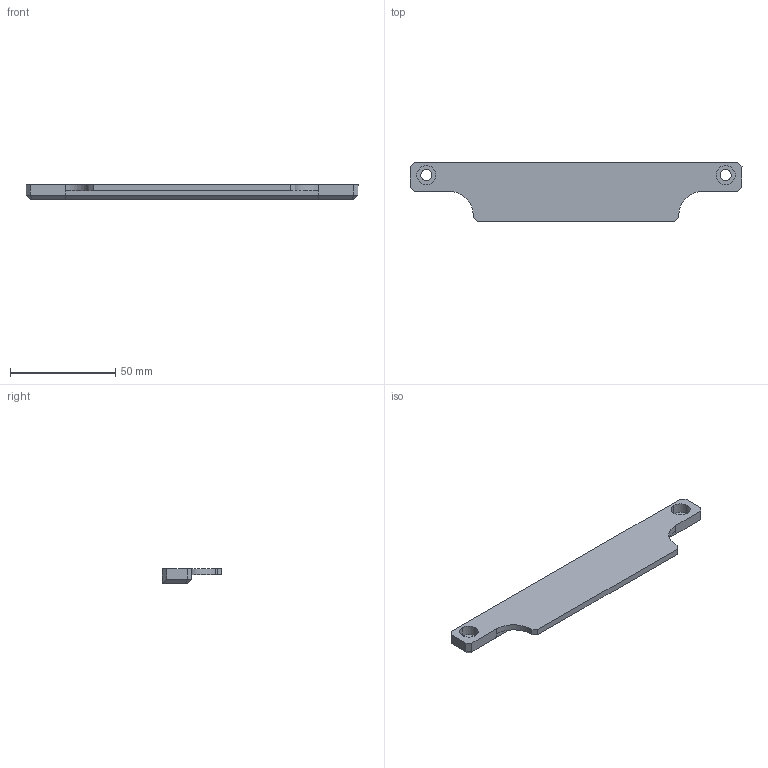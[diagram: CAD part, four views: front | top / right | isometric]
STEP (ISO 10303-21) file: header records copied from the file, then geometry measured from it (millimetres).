
FILE_DESCRIPTION(/* description */ ('VariCAD 2010-1.04 AP-203'),/* implementation_level */ '2;1');
FILE_NAME(/* name */ '0353-19-34',/* time_stamp */ '2010-01-26T13:20:22-07:00',/* author */ (''),/* organization */ (''),/* preprocessor_version */ 'ST-DEVELOPER v12',/* originating_system */ 'VariCAD 2010-1.04; kernel version (20090520)',/* authorisation */ '');
FILE_SCHEMA (('CONFIG_CONTROL_DESIGN'));
Length unit declared in the file: millimetre
Products named in the file (1): Part
Bounding box: 157.45 x 28 x 7 mm (x, y, z)
Volume: 14411.5 mm3; surface area: 9678.1 mm2
Topology: 1 solids, 1 shells, 47 faces, 117 edges, 74 vertices
Faces by surface type: plane 35, cylinder 12
Entity records: 1435 total; most frequent: DIRECTION 241, CARTESIAN_POINT 240, ORIENTED_EDGE 234, EDGE_CURVE 117, LINE 91, VECTOR 91, AXIS2_PLACEMENT_3D 75, VERTEX_POINT 74
